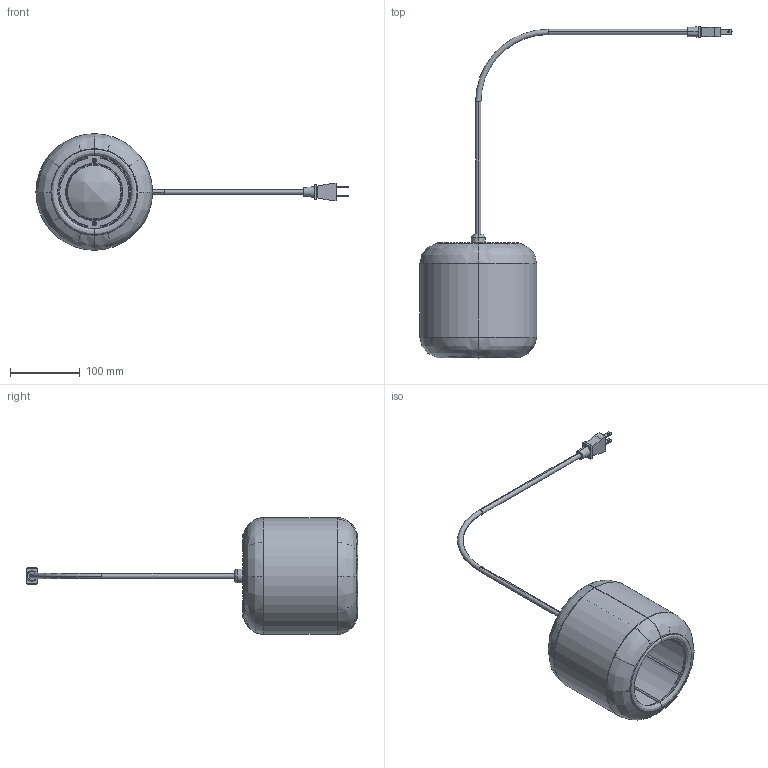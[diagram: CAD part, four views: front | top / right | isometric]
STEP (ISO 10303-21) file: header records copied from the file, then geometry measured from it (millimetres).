
FILE_DESCRIPTION (( 'STEP AP203' ), '1' );
FILE_NAME ('NANS HANG S-16 30921201yyyUXXXXXXXXXXXX.STEP', '2022-01-27T10:33:45', ( '' ), ( '' ), 'SwSTEP 2.0', 'SolidWorks 2019', '' );
FILE_SCHEMA (( 'CONFIG_CONTROL_DESIGN' ));
Length unit declared in the file: millimetre
Products named in the file (9): 000-309-106; 000-309-510 M; NANS HANG S-16 30921201yyyUXXXXXXXXXXXX; 000-309-503; 000-D965-310-A2; 000-SUB309-501; 000-309-505; 908-023 NANS HANG U; 000-309-029
Assembly tree (9 placements, depth 3):
  NANS HANG S-16 30921201yyyUXXXXXXXXXXXX
    000-SUB309-501
      000-309-510 M
      000-309-505
      000-309-503
      000-309-029
      000-D965-310-A2  x2
    000-309-106
    908-023 NANS HANG U
Bounding box: 447 x 475.5 x 167 mm (x, y, z)
Volume: 274439.3 mm3; surface area: 329448.2 mm2
Topology: 8 solids, 10 shells, 736 faces, 2015 edges, 1266 vertices
Faces by surface type: plane 219, bspline 210, cone 180, cylinder 125, torus 2
Entity records: 28952 total; most frequent: CARTESIAN_POINT 11236, ORIENTED_EDGE 3842, DIRECTION 3101, EDGE_CURVE 1921, AXIS2_PLACEMENT_3D 1256, VERTEX_POINT 1235, EDGE_LOOP 794, CIRCLE 751
